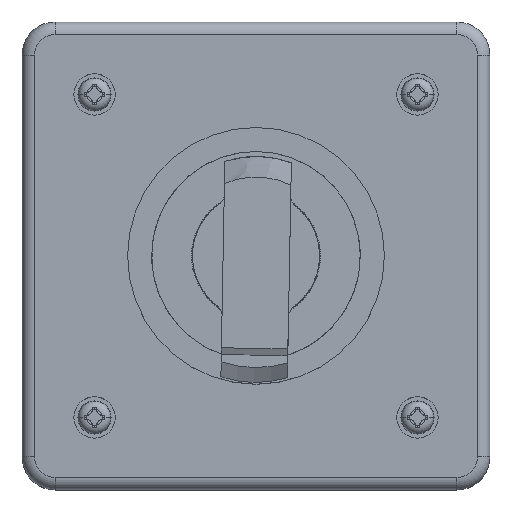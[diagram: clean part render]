
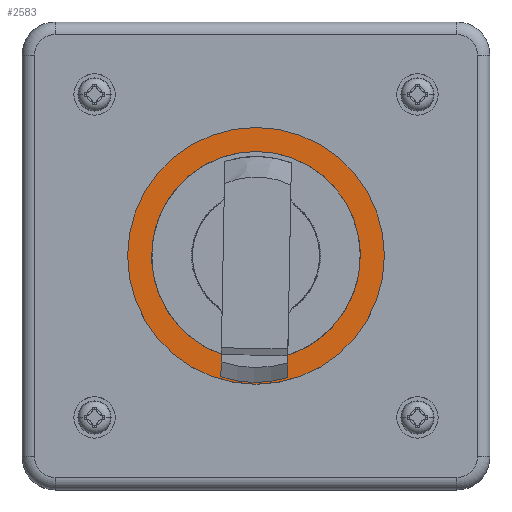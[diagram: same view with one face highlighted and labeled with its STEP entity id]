
A CAD part, top view. The second image highlights one B-rep face of the part: STEP entity #2583.
In plain terms, the highlighted planar face has unit normal (0, 0, 1).
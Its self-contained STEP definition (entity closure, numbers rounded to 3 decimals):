
#2138 = VERTEX_POINT ( 'NONE', #8568 ) ;
#2140 = EDGE_CURVE ( 'NONE', #2138, #2141, #8567, .T. ) ;
#2141 = VERTEX_POINT ( 'NONE', #8562 ) ;
#2147 = EDGE_CURVE ( 'NONE', #2148, #2149, #8612, .T. ) ;
#2148 = VERTEX_POINT ( 'NONE', #8608 ) ;
#2149 = VERTEX_POINT ( 'NONE', #8607 ) ;
#2568 = ORIENTED_EDGE ( 'NONE', *, *, #2580, .T. ) ;
#2569 = ORIENTED_EDGE ( 'NONE', *, *, #2147, .T. ) ;
#2580 = EDGE_CURVE ( 'NONE', #2149, #2148, #9318, .T. ) ;
#2583 = ADVANCED_FACE ( 'NONE', ( #9313, #9312 ), #9311, .T. ) ;
#2584 = EDGE_LOOP ( 'NONE', ( #2585, #2587 ) ) ;
#2585 = ORIENTED_EDGE ( 'NONE', *, *, #2586, .F. ) ;
#2586 = EDGE_CURVE ( 'NONE', #2141, #2138, #9306, .T. ) ;
#2587 = ORIENTED_EDGE ( 'NONE', *, *, #2140, .F. ) ;
#2588 = EDGE_LOOP ( 'NONE', ( #2568, #2569 ) ) ;
#8562 = CARTESIAN_POINT ( 'NONE',  ( 25.2, 0., 27. ) ) ;
#8563 = DIRECTION ( 'NONE',  ( 1., 0., 0. ) ) ;
#8564 = DIRECTION ( 'NONE',  ( 0., 0., 1. ) ) ;
#8565 = CARTESIAN_POINT ( 'NONE',  ( 0., 0., 27. ) ) ;
#8566 = AXIS2_PLACEMENT_3D ( 'NONE', #8565, #8564, #8563 ) ;
#8567 = CIRCLE ( 'NONE', #8566, 25.2 ) ;
#8568 = CARTESIAN_POINT ( 'NONE',  ( -25.2, 0., 27. ) ) ;
#8607 = CARTESIAN_POINT ( 'NONE',  ( -31., 0., 27. ) ) ;
#8608 = CARTESIAN_POINT ( 'NONE',  ( 31., 0., 27. ) ) ;
#8609 = DIRECTION ( 'NONE',  ( 1., 0., 0. ) ) ;
#8610 = DIRECTION ( 'NONE',  ( 0., 0., 1. ) ) ;
#8611 = AXIS2_PLACEMENT_3D ( 'NONE', #8618, #8610, #8609 ) ;
#8612 = CIRCLE ( 'NONE', #8611, 31. ) ;
#8618 = CARTESIAN_POINT ( 'NONE',  ( 0., 0., 27. ) ) ;
#9302 = DIRECTION ( 'NONE',  ( 1., 0., 0. ) ) ;
#9303 = DIRECTION ( 'NONE',  ( 0., 0., 1. ) ) ;
#9304 = CARTESIAN_POINT ( 'NONE',  ( 0., 0., 27. ) ) ;
#9305 = AXIS2_PLACEMENT_3D ( 'NONE', #9304, #9303, #9302 ) ;
#9306 = CIRCLE ( 'NONE', #9305, 25.2 ) ;
#9307 = DIRECTION ( 'NONE',  ( 1., 0., 0. ) ) ;
#9308 = DIRECTION ( 'NONE',  ( 0., 0., 1. ) ) ;
#9309 = CARTESIAN_POINT ( 'NONE',  ( 0., 0., 27. ) ) ;
#9310 = AXIS2_PLACEMENT_3D ( 'NONE', #9309, #9308, #9307 ) ;
#9311 = PLANE ( 'NONE',  #9310 ) ;
#9312 = FACE_OUTER_BOUND ( 'NONE', #2588, .T. ) ;
#9313 = FACE_BOUND ( 'NONE', #2584, .T. ) ;
#9314 = DIRECTION ( 'NONE',  ( 1., 0., 0. ) ) ;
#9315 = DIRECTION ( 'NONE',  ( 0., 0., 1. ) ) ;
#9316 = CARTESIAN_POINT ( 'NONE',  ( 0., 0., 27. ) ) ;
#9317 = AXIS2_PLACEMENT_3D ( 'NONE', #9316, #9315, #9314 ) ;
#9318 = CIRCLE ( 'NONE', #9317, 31. ) ;
